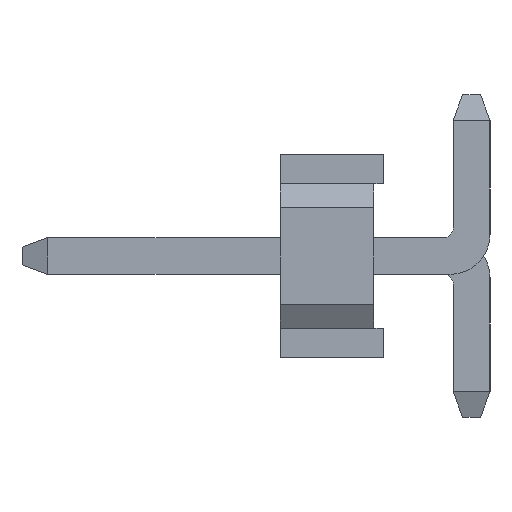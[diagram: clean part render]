
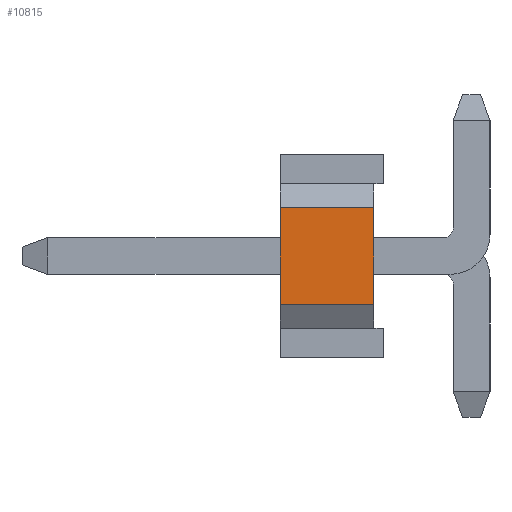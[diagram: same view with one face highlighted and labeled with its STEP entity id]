
A CAD part, left-side view. The second image highlights one B-rep face of the part: STEP entity #10815.
In plain terms, the highlighted planar face has unit normal (-1, 0, 0).
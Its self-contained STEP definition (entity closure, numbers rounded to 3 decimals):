
#116 = LINE ( 'NONE', #8971, #7476 ) ;
#1005 = VERTEX_POINT ( 'NONE', #4429 ) ;
#1197 = ORIENTED_EDGE ( 'NONE', *, *, #4715, .F. ) ;
#1203 = CARTESIAN_POINT ( 'NONE',  ( -70.85, 7.9, 5.27 ) ) ;
#2332 = VERTEX_POINT ( 'NONE', #5187 ) ;
#2642 = DIRECTION ( 'NONE',  ( 0., 0., 1. ) ) ;
#3778 = ORIENTED_EDGE ( 'NONE', *, *, #7891, .T. ) ;
#3893 = CARTESIAN_POINT ( 'NONE',  ( -70.85, 7.9, 2.27 ) ) ;
#3952 = AXIS2_PLACEMENT_3D ( 'NONE', #6505, #8183, #5447 ) ;
#4243 = CARTESIAN_POINT ( 'NONE',  ( -70.85, 6.9, 3.405 ) ) ;
#4429 = CARTESIAN_POINT ( 'NONE',  ( -70.85, 9.8, 2.27 ) ) ;
#4465 = DIRECTION ( 'NONE',  ( 0., 0., -1. ) ) ;
#4496 = PLANE ( 'NONE',  #3952 ) ;
#4665 = FACE_OUTER_BOUND ( 'NONE', #9554, .T. ) ;
#4715 = EDGE_CURVE ( 'NONE', #9457, #1005, #10238, .T. ) ;
#4825 = VECTOR ( 'NONE', #10891, 1000. ) ;
#4858 = DIRECTION ( 'NONE',  ( 0., 1., 0. ) ) ;
#5083 = VECTOR ( 'NONE', #4858, 1000. ) ;
#5116 = EDGE_CURVE ( 'NONE', #9457, #6461, #5325, .T. ) ;
#5187 = CARTESIAN_POINT ( 'NONE',  ( -70.85, 9.8, 5.27 ) ) ;
#5325 = LINE ( 'NONE', #4243, #9354 ) ;
#5447 = DIRECTION ( 'NONE',  ( 0., 1., 0. ) ) ;
#6461 = VERTEX_POINT ( 'NONE', #11771 ) ;
#6505 = CARTESIAN_POINT ( 'NONE',  ( -70.85, 6.4, 3.04 ) ) ;
#6520 = EDGE_CURVE ( 'NONE', #2332, #1005, #116, .T. ) ;
#7285 = CARTESIAN_POINT ( 'NONE',  ( -70.85, 6.9, 2.27 ) ) ;
#7476 = VECTOR ( 'NONE', #4465, 1000. ) ;
#7891 = EDGE_CURVE ( 'NONE', #6461, #2332, #8546, .T. ) ;
#8094 = ORIENTED_EDGE ( 'NONE', *, *, #6520, .T. ) ;
#8183 = DIRECTION ( 'NONE',  ( -1., 0., 0. ) ) ;
#8546 = LINE ( 'NONE', #1203, #5083 ) ;
#8567 = ORIENTED_EDGE ( 'NONE', *, *, #5116, .T. ) ;
#8971 = CARTESIAN_POINT ( 'NONE',  ( -70.85, 9.8, 7.54 ) ) ;
#9354 = VECTOR ( 'NONE', #2642, 1000. ) ;
#9457 = VERTEX_POINT ( 'NONE', #7285 ) ;
#9554 = EDGE_LOOP ( 'NONE', ( #8094, #1197, #8567, #3778 ) ) ;
#10238 = LINE ( 'NONE', #3893, #4825 ) ;
#10815 = ADVANCED_FACE ( 'NONE', ( #4665 ), #4496, .T. ) ;
#10891 = DIRECTION ( 'NONE',  ( 0., 1., 0. ) ) ;
#11771 = CARTESIAN_POINT ( 'NONE',  ( -70.85, 6.9, 5.27 ) ) ;
